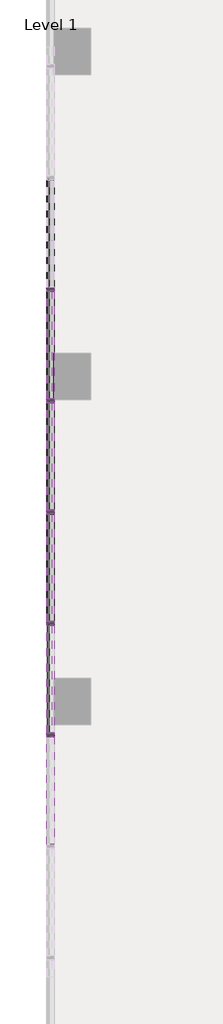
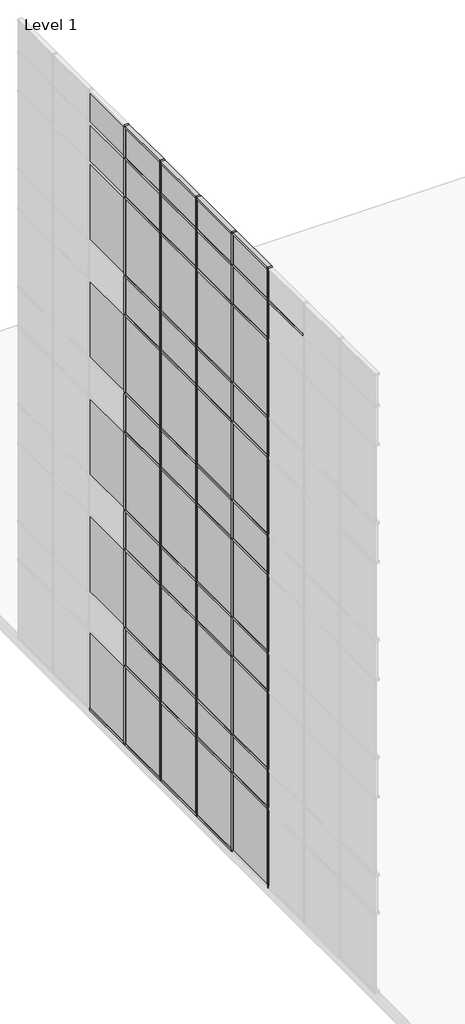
# One storey, part 3 of 23: 79 members, 51 plates.
"""IFC4 building model written with IfcOpenShell, lengths in millimetres."""

from ifc_helpers import new_model, si_unit, origin, place, context, project, spatial, transform, mapped, element, save
from components import member_f92b8aa2, member_810865a4, member_6d5c3e5e, member_9764dd38, system_panel_glazed_14c75400, system_panel_solid_5dfe6f83, system_panel_solid_e25e2004, system_panel_solid_b7551183

model = new_model("IFC4")

# Units and contexts
model_context = context("Model", 3, world=origin())
ifc_project = project(units=[si_unit("LENGTHUNIT", "METRE", prefix="MILLI")], contexts=[model_context])

# Site, building, storey
site = spatial("IfcSite", under=ifc_project)
building = spatial("IfcBuilding", under=site)
storey = spatial("IfcBuildingStorey", under=building, Name="Level 1", Elevation=0.0)

# Members
placement = place(None, origin())
member_shape = member_f92b8aa2(model_context)
element("IfcMember", 1, ObjectType="Rectangular Mullion : 2.5\" x 5\" rectangular", at=placement, inside=storey, context=model_context, shape_type="MappedRepresentation", body=[
    mapped(member_shape, transform((-68724.2599961, -14912.3103492, 18288.0), x_axis=(0.0, 1.0, 0.0), y_axis=(1.0, 0.0, 0.0), z_axis=(0.0, 0.0, -1.0))),
])
element("IfcMember", 2, ObjectType="Rectangular Mullion : 2.5\" x 5\" rectangular", at=placement, inside=storey, context=model_context, shape_type="MappedRepresentation", body=[
    mapped(member_shape, transform((-68724.2599961, -13083.5103492, 18288.0), x_axis=(0.0, 1.0, 0.0), y_axis=(1.0, 0.0, 0.0), z_axis=(0.0, 0.0, -1.0))),
])
element("IfcMember", 3, ObjectType="Rectangular Mullion : 2.5\" x 5\" rectangular", at=placement, inside=storey, context=model_context, shape_type="MappedRepresentation", body=[
    mapped(member_shape, transform((-68724.2599961, -11254.7103492, 18288.0), x_axis=(0.0, 1.0, 0.0), y_axis=(1.0, 0.0, 0.0), z_axis=(0.0, 0.0, -1.0))),
])
element("IfcMember", 4, ObjectType="Rectangular Mullion : 2.5\" x 5\" rectangular", at=placement, inside=storey, context=model_context, shape_type="MappedRepresentation", body=[
    mapped(member_shape, transform((-68724.2599961, -9425.9103492, 18288.0), x_axis=(0.0, 1.0, 0.0), y_axis=(1.0, 0.0, 0.0), z_axis=(0.0, 0.0, -1.0))),
])
element("IfcMember", 5, ObjectType="Rectangular Mullion : 2.5\" x 5\" rectangular", at=placement, inside=storey, context=model_context, shape_type="MappedRepresentation", body=[
    mapped(member_shape, transform((-68724.2599961, -7597.1103492, 18288.0), x_axis=(0.0, 1.0, 0.0), y_axis=(1.0, 0.0, 0.0), z_axis=(0.0, 0.0, -1.0))),
])
member_2_shape = member_810865a4(model_context)
element("IfcMember", 6, ObjectType="Rectangular Mullion : 2.5\" x 5\" rectangular", at=placement, inside=storey, context=model_context, shape_type="MappedRepresentation", body=[
    mapped(member_2_shape, transform((-68724.2599961, -14912.3103492, 3657.6), x_axis=(0.0, 1.0, 0.0), y_axis=(1.0, 0.0, 0.0), z_axis=(0.0, 0.0, -1.0))),
])
element("IfcMember", 7, ObjectType="Rectangular Mullion : 2.5\" x 5\" rectangular", at=placement, inside=storey, context=model_context, shape_type="MappedRepresentation", body=[
    mapped(member_2_shape, transform((-68724.2599961, -13083.5103492, 3657.6), x_axis=(0.0, 1.0, 0.0), y_axis=(1.0, 0.0, 0.0), z_axis=(0.0, 0.0, -1.0))),
])
element("IfcMember", 8, ObjectType="Rectangular Mullion : 2.5\" x 5\" rectangular", at=placement, inside=storey, context=model_context, shape_type="MappedRepresentation", body=[
    mapped(member_2_shape, transform((-68724.2599961, -11254.7103492, 3657.6), x_axis=(0.0, 1.0, 0.0), y_axis=(1.0, 0.0, 0.0), z_axis=(0.0, 0.0, -1.0))),
])
element("IfcMember", 9, ObjectType="Rectangular Mullion : 2.5\" x 5\" rectangular", at=placement, inside=storey, context=model_context, shape_type="MappedRepresentation", body=[
    mapped(member_2_shape, transform((-68724.2599961, -9425.9103492, 3657.6), x_axis=(0.0, 1.0, 0.0), y_axis=(1.0, 0.0, 0.0), z_axis=(0.0, 0.0, -1.0))),
])
element("IfcMember", 10, ObjectType="Rectangular Mullion : 2.5\" x 5\" rectangular", at=placement, inside=storey, context=model_context, shape_type="MappedRepresentation", body=[
    mapped(member_2_shape, transform((-68724.2599961, -7597.1103492, 3657.6), x_axis=(0.0, 1.0, 0.0), y_axis=(1.0, 0.0, 0.0), z_axis=(0.0, 0.0, -1.0))),
])
element("IfcMember", 11, ObjectType="Rectangular Mullion : 2.5\" x 5\" rectangular", at=placement, inside=storey, context=model_context, shape_type="MappedRepresentation", body=[
    mapped(member_2_shape, transform((-68724.2599961, -14912.3103492, 7315.2), x_axis=(0.0, 1.0, 0.0), y_axis=(1.0, 0.0, 0.0), z_axis=(0.0, 0.0, -1.0))),
])
element("IfcMember", 12, ObjectType="Rectangular Mullion : 2.5\" x 5\" rectangular", at=placement, inside=storey, context=model_context, shape_type="MappedRepresentation", body=[
    mapped(member_2_shape, transform((-68724.2599961, -13083.5103492, 7315.2), x_axis=(0.0, 1.0, 0.0), y_axis=(1.0, 0.0, 0.0), z_axis=(0.0, 0.0, -1.0))),
])
element("IfcMember", 13, ObjectType="Rectangular Mullion : 2.5\" x 5\" rectangular", at=placement, inside=storey, context=model_context, shape_type="MappedRepresentation", body=[
    mapped(member_2_shape, transform((-68724.2599961, -11254.7103492, 7315.2), x_axis=(0.0, 1.0, 0.0), y_axis=(1.0, 0.0, 0.0), z_axis=(0.0, 0.0, -1.0))),
])
element("IfcMember", 14, ObjectType="Rectangular Mullion : 2.5\" x 5\" rectangular", at=placement, inside=storey, context=model_context, shape_type="MappedRepresentation", body=[
    mapped(member_2_shape, transform((-68724.2599961, -9425.9103492, 7315.2), x_axis=(0.0, 1.0, 0.0), y_axis=(1.0, 0.0, 0.0), z_axis=(0.0, 0.0, -1.0))),
])
element("IfcMember", 15, ObjectType="Rectangular Mullion : 2.5\" x 5\" rectangular", at=placement, inside=storey, context=model_context, shape_type="MappedRepresentation", body=[
    mapped(member_2_shape, transform((-68724.2599961, -7597.1103492, 7315.2), x_axis=(0.0, 1.0, 0.0), y_axis=(1.0, 0.0, 0.0), z_axis=(0.0, 0.0, -1.0))),
])
element("IfcMember", 16, ObjectType="Rectangular Mullion : 2.5\" x 5\" rectangular", at=placement, inside=storey, context=model_context, shape_type="MappedRepresentation", body=[
    mapped(member_2_shape, transform((-68724.2599961, -14912.3103492, 10972.8), x_axis=(0.0, 1.0, 0.0), y_axis=(1.0, 0.0, 0.0), z_axis=(0.0, 0.0, -1.0))),
])
element("IfcMember", 17, ObjectType="Rectangular Mullion : 2.5\" x 5\" rectangular", at=placement, inside=storey, context=model_context, shape_type="MappedRepresentation", body=[
    mapped(member_2_shape, transform((-68724.2599961, -13083.5103492, 10972.8), x_axis=(0.0, 1.0, 0.0), y_axis=(1.0, 0.0, 0.0), z_axis=(0.0, 0.0, -1.0))),
])
element("IfcMember", 18, ObjectType="Rectangular Mullion : 2.5\" x 5\" rectangular", at=placement, inside=storey, context=model_context, shape_type="MappedRepresentation", body=[
    mapped(member_2_shape, transform((-68724.2599961, -11254.7103492, 10972.8), x_axis=(0.0, 1.0, 0.0), y_axis=(1.0, 0.0, 0.0), z_axis=(0.0, 0.0, -1.0))),
])
element("IfcMember", 19, ObjectType="Rectangular Mullion : 2.5\" x 5\" rectangular", at=placement, inside=storey, context=model_context, shape_type="MappedRepresentation", body=[
    mapped(member_2_shape, transform((-68724.2599961, -9425.9103492, 10972.8), x_axis=(0.0, 1.0, 0.0), y_axis=(1.0, 0.0, 0.0), z_axis=(0.0, 0.0, -1.0))),
])
element("IfcMember", 20, ObjectType="Rectangular Mullion : 2.5\" x 5\" rectangular", at=placement, inside=storey, context=model_context, shape_type="MappedRepresentation", body=[
    mapped(member_2_shape, transform((-68724.2599961, -7597.1103492, 10972.8), x_axis=(0.0, 1.0, 0.0), y_axis=(1.0, 0.0, 0.0), z_axis=(0.0, 0.0, -1.0))),
])
element("IfcMember", 21, ObjectType="Rectangular Mullion : 2.5\" x 5\" rectangular", at=placement, inside=storey, context=model_context, shape_type="MappedRepresentation", body=[
    mapped(member_2_shape, transform((-68724.2599961, -14912.3103492, 14630.4), x_axis=(0.0, 1.0, 0.0), y_axis=(1.0, 0.0, 0.0), z_axis=(0.0, 0.0, -1.0))),
])
element("IfcMember", 22, ObjectType="Rectangular Mullion : 2.5\" x 5\" rectangular", at=placement, inside=storey, context=model_context, shape_type="MappedRepresentation", body=[
    mapped(member_2_shape, transform((-68724.2599961, -13083.5103492, 14630.4), x_axis=(0.0, 1.0, 0.0), y_axis=(1.0, 0.0, 0.0), z_axis=(0.0, 0.0, -1.0))),
])
element("IfcMember", 23, ObjectType="Rectangular Mullion : 2.5\" x 5\" rectangular", at=placement, inside=storey, context=model_context, shape_type="MappedRepresentation", body=[
    mapped(member_2_shape, transform((-68724.2599961, -11254.7103492, 14630.4), x_axis=(0.0, 1.0, 0.0), y_axis=(1.0, 0.0, 0.0), z_axis=(0.0, 0.0, -1.0))),
])
element("IfcMember", 24, ObjectType="Rectangular Mullion : 2.5\" x 5\" rectangular", at=placement, inside=storey, context=model_context, shape_type="MappedRepresentation", body=[
    mapped(member_2_shape, transform((-68724.2599961, -9425.9103492, 14630.4), x_axis=(0.0, 1.0, 0.0), y_axis=(1.0, 0.0, 0.0), z_axis=(0.0, 0.0, -1.0))),
])
element("IfcMember", 25, ObjectType="Rectangular Mullion : 2.5\" x 5\" rectangular", at=placement, inside=storey, context=model_context, shape_type="MappedRepresentation", body=[
    mapped(member_2_shape, transform((-68724.2599961, -7597.1103492, 14630.4), x_axis=(0.0, 1.0, 0.0), y_axis=(1.0, 0.0, 0.0), z_axis=(0.0, 0.0, -1.0))),
])
member_3_shape = member_6d5c3e5e(model_context)
element("IfcMember", 26, ObjectType="Rectangular Mullion : 2.5\" x 5\" rectangular", at=placement, inside=storey, context=model_context, shape_type="MappedRepresentation", body=[
    mapped(member_3_shape, transform((-68724.2599961, -13115.2603492, 19304.0), x_axis=(0.0, 0.0, 1.0), y_axis=(1.0, 0.0, 0.0), z_axis=(0.0, 1.0, 0.0))),
])
element("IfcMember", 27, ObjectType="Rectangular Mullion : 2.5\" x 5\" rectangular", at=placement, inside=storey, context=model_context, shape_type="MappedRepresentation", body=[
    mapped(member_3_shape, transform((-68724.2599961, -11286.4603492, 19304.0), x_axis=(0.0, 0.0, 1.0), y_axis=(1.0, 0.0, 0.0), z_axis=(0.0, 1.0, 0.0))),
])
element("IfcMember", 28, ObjectType="Rectangular Mullion : 2.5\" x 5\" rectangular", at=placement, inside=storey, context=model_context, shape_type="MappedRepresentation", body=[
    mapped(member_3_shape, transform((-68724.2599961, -9457.6603492, 19304.0), x_axis=(0.0, 0.0, 1.0), y_axis=(1.0, 0.0, 0.0), z_axis=(0.0, 1.0, 0.0))),
])
element("IfcMember", 29, ObjectType="Rectangular Mullion : 2.5\" x 5\" rectangular", at=placement, inside=storey, context=model_context, shape_type="MappedRepresentation", body=[
    mapped(member_3_shape, transform((-68724.2599961, -7628.8603492, 19304.0), x_axis=(0.0, 0.0, 1.0), y_axis=(1.0, 0.0, 0.0), z_axis=(0.0, 1.0, 0.0))),
])
member_4_shape = member_9764dd38(model_context)
element("IfcMember", 30, ObjectType="Rectangular Mullion : 2.5\" x 5\" rectangular", at=placement, inside=storey, context=model_context, shape_type="MappedRepresentation", body=[
    mapped(member_4_shape, transform((-68724.2599961, -7628.8603492, 17068.8), x_axis=(0.0, 0.0, 1.0), y_axis=(1.0, 0.0, 0.0), z_axis=(0.0, 1.0, 0.0))),
])
element("IfcMember", 31, ObjectType="Rectangular Mullion : 2.5\" x 5\" rectangular", at=placement, inside=storey, context=model_context, shape_type="MappedRepresentation", body=[
    mapped(member_4_shape, transform((-68724.2599961, -9457.6603492, 17068.8), x_axis=(0.0, 0.0, 1.0), y_axis=(1.0, 0.0, 0.0), z_axis=(0.0, 1.0, 0.0))),
])
element("IfcMember", 32, ObjectType="Rectangular Mullion : 2.5\" x 5\" rectangular", at=placement, inside=storey, context=model_context, shape_type="MappedRepresentation", body=[
    mapped(member_4_shape, transform((-68724.2599961, -11286.4603492, 17068.8), x_axis=(0.0, 0.0, 1.0), y_axis=(1.0, 0.0, 0.0), z_axis=(0.0, 1.0, 0.0))),
])
element("IfcMember", 33, ObjectType="Rectangular Mullion : 2.5\" x 5\" rectangular", at=placement, inside=storey, context=model_context, shape_type="MappedRepresentation", body=[
    mapped(member_4_shape, transform((-68724.2599961, -13115.2603492, 17068.8), x_axis=(0.0, 0.0, 1.0), y_axis=(1.0, 0.0, 0.0), z_axis=(0.0, 1.0, 0.0))),
])
element("IfcMember", 34, ObjectType="Rectangular Mullion : 2.5\" x 5\" rectangular", at=placement, inside=storey, context=model_context, shape_type="MappedRepresentation", body=[
    mapped(member_4_shape, transform((-68724.2599961, -7628.8603492, 13411.2), x_axis=(0.0, 0.0, 1.0), y_axis=(1.0, 0.0, 0.0), z_axis=(0.0, 1.0, 0.0))),
])
element("IfcMember", 35, ObjectType="Rectangular Mullion : 2.5\" x 5\" rectangular", at=placement, inside=storey, context=model_context, shape_type="MappedRepresentation", body=[
    mapped(member_4_shape, transform((-68724.2599961, -9457.6603492, 13411.2), x_axis=(0.0, 0.0, 1.0), y_axis=(1.0, 0.0, 0.0), z_axis=(0.0, 1.0, 0.0))),
])
element("IfcMember", 36, ObjectType="Rectangular Mullion : 2.5\" x 5\" rectangular", at=placement, inside=storey, context=model_context, shape_type="MappedRepresentation", body=[
    mapped(member_4_shape, transform((-68724.2599961, -11286.4603492, 13411.2), x_axis=(0.0, 0.0, 1.0), y_axis=(1.0, 0.0, 0.0), z_axis=(0.0, 1.0, 0.0))),
])
element("IfcMember", 37, ObjectType="Rectangular Mullion : 2.5\" x 5\" rectangular", at=placement, inside=storey, context=model_context, shape_type="MappedRepresentation", body=[
    mapped(member_4_shape, transform((-68724.2599961, -13115.2603492, 13411.2), x_axis=(0.0, 0.0, 1.0), y_axis=(1.0, 0.0, 0.0), z_axis=(0.0, 1.0, 0.0))),
])
element("IfcMember", 38, ObjectType="Rectangular Mullion : 2.5\" x 5\" rectangular", at=placement, inside=storey, context=model_context, shape_type="MappedRepresentation", body=[
    mapped(member_4_shape, transform((-68724.2599961, -7628.8603492, 9753.6), x_axis=(0.0, 0.0, 1.0), y_axis=(1.0, 0.0, 0.0), z_axis=(0.0, 1.0, 0.0))),
])
element("IfcMember", 39, ObjectType="Rectangular Mullion : 2.5\" x 5\" rectangular", at=placement, inside=storey, context=model_context, shape_type="MappedRepresentation", body=[
    mapped(member_4_shape, transform((-68724.2599961, -9457.6603492, 9753.6), x_axis=(0.0, 0.0, 1.0), y_axis=(1.0, 0.0, 0.0), z_axis=(0.0, 1.0, 0.0))),
])
element("IfcMember", 40, ObjectType="Rectangular Mullion : 2.5\" x 5\" rectangular", at=placement, inside=storey, context=model_context, shape_type="MappedRepresentation", body=[
    mapped(member_4_shape, transform((-68724.2599961, -11286.4603492, 9753.6), x_axis=(0.0, 0.0, 1.0), y_axis=(1.0, 0.0, 0.0), z_axis=(0.0, 1.0, 0.0))),
])
element("IfcMember", 41, ObjectType="Rectangular Mullion : 2.5\" x 5\" rectangular", at=placement, inside=storey, context=model_context, shape_type="MappedRepresentation", body=[
    mapped(member_4_shape, transform((-68724.2599961, -13115.2603492, 9753.6), x_axis=(0.0, 0.0, 1.0), y_axis=(1.0, 0.0, 0.0), z_axis=(0.0, 1.0, 0.0))),
])
element("IfcMember", 42, ObjectType="Rectangular Mullion : 2.5\" x 5\" rectangular", at=placement, inside=storey, context=model_context, shape_type="MappedRepresentation", body=[
    mapped(member_4_shape, transform((-68724.2599961, -7628.8603492, 6096.0), x_axis=(0.0, 0.0, 1.0), y_axis=(1.0, 0.0, 0.0), z_axis=(0.0, 1.0, 0.0))),
])
element("IfcMember", 43, ObjectType="Rectangular Mullion : 2.5\" x 5\" rectangular", at=placement, inside=storey, context=model_context, shape_type="MappedRepresentation", body=[
    mapped(member_4_shape, transform((-68724.2599961, -9457.6603492, 6096.0), x_axis=(0.0, 0.0, 1.0), y_axis=(1.0, 0.0, 0.0), z_axis=(0.0, 1.0, 0.0))),
])
element("IfcMember", 44, ObjectType="Rectangular Mullion : 2.5\" x 5\" rectangular", at=placement, inside=storey, context=model_context, shape_type="MappedRepresentation", body=[
    mapped(member_4_shape, transform((-68724.2599961, -11286.4603492, 6096.0), x_axis=(0.0, 0.0, 1.0), y_axis=(1.0, 0.0, 0.0), z_axis=(0.0, 1.0, 0.0))),
])
element("IfcMember", 45, ObjectType="Rectangular Mullion : 2.5\" x 5\" rectangular", at=placement, inside=storey, context=model_context, shape_type="MappedRepresentation", body=[
    mapped(member_4_shape, transform((-68724.2599961, -13115.2603492, 6096.0), x_axis=(0.0, 0.0, 1.0), y_axis=(1.0, 0.0, 0.0), z_axis=(0.0, 1.0, 0.0))),
])
element("IfcMember", 46, ObjectType="Rectangular Mullion : 2.5\" x 5\" rectangular", at=placement, inside=storey, context=model_context, shape_type="MappedRepresentation", body=[
    mapped(member_4_shape, transform((-68724.2599961, -7628.8603492, 2470.15), x_axis=(0.0, 0.0, 1.0), y_axis=(1.0, 0.0, 0.0), z_axis=(0.0, 1.0, 0.0))),
])
element("IfcMember", 47, ObjectType="Rectangular Mullion : 2.5\" x 5\" rectangular", at=placement, inside=storey, context=model_context, shape_type="MappedRepresentation", body=[
    mapped(member_4_shape, transform((-68724.2599961, -9457.6603492, 2470.15), x_axis=(0.0, 0.0, 1.0), y_axis=(1.0, 0.0, 0.0), z_axis=(0.0, 1.0, 0.0))),
])
element("IfcMember", 48, ObjectType="Rectangular Mullion : 2.5\" x 5\" rectangular", at=placement, inside=storey, context=model_context, shape_type="MappedRepresentation", body=[
    mapped(member_4_shape, transform((-68724.2599961, -11286.4603492, 2470.15), x_axis=(0.0, 0.0, 1.0), y_axis=(1.0, 0.0, 0.0), z_axis=(0.0, 1.0, 0.0))),
])
element("IfcMember", 49, ObjectType="Rectangular Mullion : 2.5\" x 5\" rectangular", at=placement, inside=storey, context=model_context, shape_type="MappedRepresentation", body=[
    mapped(member_4_shape, transform((-68724.2599961, -13115.2603492, 2470.15), x_axis=(0.0, 0.0, 1.0), y_axis=(1.0, 0.0, 0.0), z_axis=(0.0, 1.0, 0.0))),
])
element("IfcMember", 50, ObjectType="Rectangular Mullion : 2.5\" x 5\" rectangular", at=placement, inside=storey, context=model_context, shape_type="MappedRepresentation", body=[
    mapped(member_2_shape, transform((-68724.2599961, -14912.3103492, 0.0), x_axis=(0.0, 1.0, 0.0), y_axis=(1.0, 0.0, 0.0), z_axis=(0.0, 0.0, -1.0))),
])
element("IfcMember", 51, ObjectType="Rectangular Mullion : 2.5\" x 5\" rectangular", at=placement, inside=storey, context=model_context, shape_type="MappedRepresentation", body=[
    mapped(member_2_shape, transform((-68724.2599961, -13083.5103492, 0.0), x_axis=(0.0, 1.0, 0.0), y_axis=(1.0, 0.0, 0.0), z_axis=(0.0, 0.0, -1.0))),
])
element("IfcMember", 52, ObjectType="Rectangular Mullion : 2.5\" x 5\" rectangular", at=placement, inside=storey, context=model_context, shape_type="MappedRepresentation", body=[
    mapped(member_2_shape, transform((-68724.2599961, -11254.7103492, 0.0), x_axis=(0.0, 1.0, 0.0), y_axis=(1.0, 0.0, 0.0), z_axis=(0.0, 0.0, -1.0))),
])
element("IfcMember", 53, ObjectType="Rectangular Mullion : 2.5\" x 5\" rectangular", at=placement, inside=storey, context=model_context, shape_type="MappedRepresentation", body=[
    mapped(member_2_shape, transform((-68724.2599961, -9425.9103492, 0.0), x_axis=(0.0, 1.0, 0.0), y_axis=(1.0, 0.0, 0.0), z_axis=(0.0, 0.0, -1.0))),
])
element("IfcMember", 54, ObjectType="Rectangular Mullion : 2.5\" x 5\" rectangular", at=placement, inside=storey, context=model_context, shape_type="MappedRepresentation", body=[
    mapped(member_2_shape, transform((-68724.2599961, -7597.1103492, 0.0), x_axis=(0.0, 1.0, 0.0), y_axis=(1.0, 0.0, 0.0), z_axis=(0.0, 0.0, -1.0))),
])
element("IfcMember", 55, ObjectType="Rectangular Mullion : 2.5\" x 5\" rectangular", at=placement, inside=storey, context=model_context, shape_type="MappedRepresentation", body=[
    mapped(member_3_shape, transform((-68724.2599961, -13051.7603492, 0.0), x_axis=(0.0, 0.0, -1.0), y_axis=(1.0, 0.0, 0.0), z_axis=(0.0, -1.0, 0.0))),
])
element("IfcMember", 56, ObjectType="Rectangular Mullion : 2.5\" x 5\" rectangular", at=placement, inside=storey, context=model_context, shape_type="MappedRepresentation", body=[
    mapped(member_3_shape, transform((-68724.2599961, -11222.9603492, 0.0), x_axis=(0.0, 0.0, -1.0), y_axis=(1.0, 0.0, 0.0), z_axis=(0.0, -1.0, 0.0))),
])
element("IfcMember", 57, ObjectType="Rectangular Mullion : 2.5\" x 5\" rectangular", at=placement, inside=storey, context=model_context, shape_type="MappedRepresentation", body=[
    mapped(member_3_shape, transform((-68724.2599961, -9394.1603492, 0.0), x_axis=(0.0, 0.0, -1.0), y_axis=(1.0, 0.0, 0.0), z_axis=(0.0, -1.0, 0.0))),
])
element("IfcMember", 58, ObjectType="Rectangular Mullion : 2.5\" x 5\" rectangular", at=placement, inside=storey, context=model_context, shape_type="MappedRepresentation", body=[
    mapped(member_3_shape, transform((-68724.2599961, -7565.3603492, 0.0), x_axis=(0.0, 0.0, -1.0), y_axis=(1.0, 0.0, 0.0), z_axis=(0.0, -1.0, 0.0))),
])
element("IfcMember", 59, ObjectType="Rectangular Mullion : 2.5\" x 5\" rectangular", at=placement, inside=storey, context=model_context, shape_type="MappedRepresentation", body=[
    mapped(member_4_shape, transform((-68724.2599961, -13115.2603492, 3657.6), x_axis=(0.0, 0.0, 1.0), y_axis=(1.0, 0.0, 0.0), z_axis=(0.0, 1.0, 0.0))),
])
element("IfcMember", 60, ObjectType="Rectangular Mullion : 2.5\" x 5\" rectangular", at=placement, inside=storey, context=model_context, shape_type="MappedRepresentation", body=[
    mapped(member_4_shape, transform((-68724.2599961, -11286.4603492, 3657.6), x_axis=(0.0, 0.0, 1.0), y_axis=(1.0, 0.0, 0.0), z_axis=(0.0, 1.0, 0.0))),
])
element("IfcMember", 61, ObjectType="Rectangular Mullion : 2.5\" x 5\" rectangular", at=placement, inside=storey, context=model_context, shape_type="MappedRepresentation", body=[
    mapped(member_4_shape, transform((-68724.2599961, -9457.6603492, 3657.6), x_axis=(0.0, 0.0, 1.0), y_axis=(1.0, 0.0, 0.0), z_axis=(0.0, 1.0, 0.0))),
])
element("IfcMember", 62, ObjectType="Rectangular Mullion : 2.5\" x 5\" rectangular", at=placement, inside=storey, context=model_context, shape_type="MappedRepresentation", body=[
    mapped(member_4_shape, transform((-68724.2599961, -7628.8603492, 3657.6), x_axis=(0.0, 0.0, 1.0), y_axis=(1.0, 0.0, 0.0), z_axis=(0.0, 1.0, 0.0))),
])
element("IfcMember", 63, ObjectType="Rectangular Mullion : 2.5\" x 5\" rectangular", at=placement, inside=storey, context=model_context, shape_type="MappedRepresentation", body=[
    mapped(member_4_shape, transform((-68724.2599961, -13115.2603492, 7315.2), x_axis=(0.0, 0.0, 1.0), y_axis=(1.0, 0.0, 0.0), z_axis=(0.0, 1.0, 0.0))),
])
element("IfcMember", 64, ObjectType="Rectangular Mullion : 2.5\" x 5\" rectangular", at=placement, inside=storey, context=model_context, shape_type="MappedRepresentation", body=[
    mapped(member_4_shape, transform((-68724.2599961, -11286.4603492, 7315.2), x_axis=(0.0, 0.0, 1.0), y_axis=(1.0, 0.0, 0.0), z_axis=(0.0, 1.0, 0.0))),
])
element("IfcMember", 65, ObjectType="Rectangular Mullion : 2.5\" x 5\" rectangular", at=placement, inside=storey, context=model_context, shape_type="MappedRepresentation", body=[
    mapped(member_4_shape, transform((-68724.2599961, -9457.6603492, 7315.2), x_axis=(0.0, 0.0, 1.0), y_axis=(1.0, 0.0, 0.0), z_axis=(0.0, 1.0, 0.0))),
])
element("IfcMember", 66, ObjectType="Rectangular Mullion : 2.5\" x 5\" rectangular", at=placement, inside=storey, context=model_context, shape_type="MappedRepresentation", body=[
    mapped(member_4_shape, transform((-68724.2599961, -7628.8603492, 7315.2), x_axis=(0.0, 0.0, 1.0), y_axis=(1.0, 0.0, 0.0), z_axis=(0.0, 1.0, 0.0))),
])
element("IfcMember", 67, ObjectType="Rectangular Mullion : 2.5\" x 5\" rectangular", at=placement, inside=storey, context=model_context, shape_type="MappedRepresentation", body=[
    mapped(member_4_shape, transform((-68724.2599961, -13115.2603492, 10972.8), x_axis=(0.0, 0.0, 1.0), y_axis=(1.0, 0.0, 0.0), z_axis=(0.0, 1.0, 0.0))),
])
element("IfcMember", 68, ObjectType="Rectangular Mullion : 2.5\" x 5\" rectangular", at=placement, inside=storey, context=model_context, shape_type="MappedRepresentation", body=[
    mapped(member_4_shape, transform((-68724.2599961, -11286.4603492, 10972.8), x_axis=(0.0, 0.0, 1.0), y_axis=(1.0, 0.0, 0.0), z_axis=(0.0, 1.0, 0.0))),
])
element("IfcMember", 69, ObjectType="Rectangular Mullion : 2.5\" x 5\" rectangular", at=placement, inside=storey, context=model_context, shape_type="MappedRepresentation", body=[
    mapped(member_4_shape, transform((-68724.2599961, -9457.6603492, 10972.8), x_axis=(0.0, 0.0, 1.0), y_axis=(1.0, 0.0, 0.0), z_axis=(0.0, 1.0, 0.0))),
])
element("IfcMember", 70, ObjectType="Rectangular Mullion : 2.5\" x 5\" rectangular", at=placement, inside=storey, context=model_context, shape_type="MappedRepresentation", body=[
    mapped(member_4_shape, transform((-68724.2599961, -7628.8603492, 10972.8), x_axis=(0.0, 0.0, 1.0), y_axis=(1.0, 0.0, 0.0), z_axis=(0.0, 1.0, 0.0))),
])
element("IfcMember", 71, ObjectType="Rectangular Mullion : 2.5\" x 5\" rectangular", at=placement, inside=storey, context=model_context, shape_type="MappedRepresentation", body=[
    mapped(member_4_shape, transform((-68724.2599961, -13115.2603492, 14630.4), x_axis=(0.0, 0.0, 1.0), y_axis=(1.0, 0.0, 0.0), z_axis=(0.0, 1.0, 0.0))),
])
element("IfcMember", 72, ObjectType="Rectangular Mullion : 2.5\" x 5\" rectangular", at=placement, inside=storey, context=model_context, shape_type="MappedRepresentation", body=[
    mapped(member_4_shape, transform((-68724.2599961, -11286.4603492, 14630.4), x_axis=(0.0, 0.0, 1.0), y_axis=(1.0, 0.0, 0.0), z_axis=(0.0, 1.0, 0.0))),
])
element("IfcMember", 73, ObjectType="Rectangular Mullion : 2.5\" x 5\" rectangular", at=placement, inside=storey, context=model_context, shape_type="MappedRepresentation", body=[
    mapped(member_4_shape, transform((-68724.2599961, -9457.6603492, 14630.4), x_axis=(0.0, 0.0, 1.0), y_axis=(1.0, 0.0, 0.0), z_axis=(0.0, 1.0, 0.0))),
])
element("IfcMember", 74, ObjectType="Rectangular Mullion : 2.5\" x 5\" rectangular", at=placement, inside=storey, context=model_context, shape_type="MappedRepresentation", body=[
    mapped(member_4_shape, transform((-68724.2599961, -7628.8603492, 14630.4), x_axis=(0.0, 0.0, 1.0), y_axis=(1.0, 0.0, 0.0), z_axis=(0.0, 1.0, 0.0))),
])
element("IfcMember", 75, ObjectType="Rectangular Mullion : 2.5\" x 5\" rectangular", at=placement, inside=storey, context=model_context, shape_type="MappedRepresentation", body=[
    mapped(member_4_shape, transform((-68724.2599961, -14944.0603492, 18288.0), x_axis=(0.0, 0.0, 1.0), y_axis=(1.0, 0.0, 0.0), z_axis=(0.0, 1.0, 0.0))),
])
element("IfcMember", 76, ObjectType="Rectangular Mullion : 2.5\" x 5\" rectangular", at=placement, inside=storey, context=model_context, shape_type="MappedRepresentation", body=[
    mapped(member_4_shape, transform((-68724.2599961, -13115.2603492, 18288.0), x_axis=(0.0, 0.0, 1.0), y_axis=(1.0, 0.0, 0.0), z_axis=(0.0, 1.0, 0.0))),
])
element("IfcMember", 77, ObjectType="Rectangular Mullion : 2.5\" x 5\" rectangular", at=placement, inside=storey, context=model_context, shape_type="MappedRepresentation", body=[
    mapped(member_4_shape, transform((-68724.2599961, -11286.4603492, 18288.0), x_axis=(0.0, 0.0, 1.0), y_axis=(1.0, 0.0, 0.0), z_axis=(0.0, 1.0, 0.0))),
])
element("IfcMember", 78, ObjectType="Rectangular Mullion : 2.5\" x 5\" rectangular", at=placement, inside=storey, context=model_context, shape_type="MappedRepresentation", body=[
    mapped(member_4_shape, transform((-68724.2599961, -9457.6603492, 18288.0), x_axis=(0.0, 0.0, 1.0), y_axis=(1.0, 0.0, 0.0), z_axis=(0.0, 1.0, 0.0))),
])
element("IfcMember", 79, ObjectType="Rectangular Mullion : 2.5\" x 5\" rectangular", at=placement, inside=storey, context=model_context, shape_type="MappedRepresentation", body=[
    mapped(member_4_shape, transform((-68724.2599961, -7628.8603492, 18288.0), x_axis=(0.0, 0.0, 1.0), y_axis=(1.0, 0.0, 0.0), z_axis=(0.0, 1.0, 0.0))),
])

# Plates
system_panel_glazed_shape = system_panel_glazed_14c75400(model_context)
element("IfcPlate", 80, ObjectType="System Panel : Glazed", at=placement, inside=storey, context=model_context, shape_type="MappedRepresentation", body=[
    mapped(system_panel_glazed_shape, transform((-68724.2599961, -6682.7103492, 14662.15), x_axis=(0.0, 1.0, 0.0), y_axis=(-1.0, 0.0, 0.0), z_axis=(0.0, 0.0, 1.0))),
])
element("IfcPlate", 81, ObjectType="System Panel : Glazed", at=placement, inside=storey, context=model_context, shape_type="MappedRepresentation", body=[
    mapped(system_panel_glazed_shape, transform((-68724.2599961, -8511.5103492, 14662.15), x_axis=(0.0, 1.0, 0.0), y_axis=(-1.0, 0.0, 0.0), z_axis=(0.0, 0.0, 1.0))),
])
element("IfcPlate", 82, ObjectType="System Panel : Glazed", at=placement, inside=storey, context=model_context, shape_type="MappedRepresentation", body=[
    mapped(system_panel_glazed_shape, transform((-68724.2599961, -10340.3103492, 14662.15), x_axis=(0.0, 1.0, 0.0), y_axis=(-1.0, 0.0, 0.0), z_axis=(0.0, 0.0, 1.0))),
])
element("IfcPlate", 83, ObjectType="System Panel : Glazed", at=placement, inside=storey, context=model_context, shape_type="MappedRepresentation", body=[
    mapped(system_panel_glazed_shape, transform((-68724.2599961, -12169.1103492, 14662.15), x_axis=(0.0, 1.0, 0.0), y_axis=(-1.0, 0.0, 0.0), z_axis=(0.0, 0.0, 1.0))),
])
element("IfcPlate", 84, ObjectType="System Panel : Glazed", at=placement, inside=storey, context=model_context, shape_type="MappedRepresentation", body=[
    mapped(system_panel_glazed_shape, transform((-68724.2599961, -13997.9103492, 14662.15), x_axis=(0.0, 1.0, 0.0), y_axis=(-1.0, 0.0, 0.0), z_axis=(0.0, 0.0, 1.0))),
])
element("IfcPlate", 85, ObjectType="System Panel : Glazed", at=placement, inside=storey, context=model_context, shape_type="MappedRepresentation", body=[
    mapped(system_panel_glazed_shape, transform((-68724.2599961, -6682.7103492, 11004.55), x_axis=(0.0, 1.0, 0.0), y_axis=(-1.0, 0.0, 0.0), z_axis=(0.0, 0.0, 1.0))),
])
element("IfcPlate", 86, ObjectType="System Panel : Glazed", at=placement, inside=storey, context=model_context, shape_type="MappedRepresentation", body=[
    mapped(system_panel_glazed_shape, transform((-68724.2599961, -8511.5103492, 11004.55), x_axis=(0.0, 1.0, 0.0), y_axis=(-1.0, 0.0, 0.0), z_axis=(0.0, 0.0, 1.0))),
])
element("IfcPlate", 87, ObjectType="System Panel : Glazed", at=placement, inside=storey, context=model_context, shape_type="MappedRepresentation", body=[
    mapped(system_panel_glazed_shape, transform((-68724.2599961, -10340.3103492, 11004.55), x_axis=(0.0, 1.0, 0.0), y_axis=(-1.0, 0.0, 0.0), z_axis=(0.0, 0.0, 1.0))),
])
element("IfcPlate", 88, ObjectType="System Panel : Glazed", at=placement, inside=storey, context=model_context, shape_type="MappedRepresentation", body=[
    mapped(system_panel_glazed_shape, transform((-68724.2599961, -12169.1103492, 11004.55), x_axis=(0.0, 1.0, 0.0), y_axis=(-1.0, 0.0, 0.0), z_axis=(0.0, 0.0, 1.0))),
])
element("IfcPlate", 89, ObjectType="System Panel : Glazed", at=placement, inside=storey, context=model_context, shape_type="MappedRepresentation", body=[
    mapped(system_panel_glazed_shape, transform((-68724.2599961, -13997.9103492, 11004.55), x_axis=(0.0, 1.0, 0.0), y_axis=(-1.0, 0.0, 0.0), z_axis=(0.0, 0.0, 1.0))),
])
element("IfcPlate", 90, ObjectType="System Panel : Glazed", at=placement, inside=storey, context=model_context, shape_type="MappedRepresentation", body=[
    mapped(system_panel_glazed_shape, transform((-68724.2599961, -6682.7103492, 7346.95), x_axis=(0.0, 1.0, 0.0), y_axis=(-1.0, 0.0, 0.0), z_axis=(0.0, 0.0, 1.0))),
])
element("IfcPlate", 91, ObjectType="System Panel : Glazed", at=placement, inside=storey, context=model_context, shape_type="MappedRepresentation", body=[
    mapped(system_panel_glazed_shape, transform((-68724.2599961, -8511.5103492, 7346.95), x_axis=(0.0, 1.0, 0.0), y_axis=(-1.0, 0.0, 0.0), z_axis=(0.0, 0.0, 1.0))),
])
element("IfcPlate", 92, ObjectType="System Panel : Glazed", at=placement, inside=storey, context=model_context, shape_type="MappedRepresentation", body=[
    mapped(system_panel_glazed_shape, transform((-68724.2599961, -10340.3103492, 7346.95), x_axis=(0.0, 1.0, 0.0), y_axis=(-1.0, 0.0, 0.0), z_axis=(0.0, 0.0, 1.0))),
])
element("IfcPlate", 93, ObjectType="System Panel : Glazed", at=placement, inside=storey, context=model_context, shape_type="MappedRepresentation", body=[
    mapped(system_panel_glazed_shape, transform((-68724.2599961, -12169.1103492, 7346.95), x_axis=(0.0, 1.0, 0.0), y_axis=(-1.0, 0.0, 0.0), z_axis=(0.0, 0.0, 1.0))),
])
element("IfcPlate", 94, ObjectType="System Panel : Glazed", at=placement, inside=storey, context=model_context, shape_type="MappedRepresentation", body=[
    mapped(system_panel_glazed_shape, transform((-68724.2599961, -13997.9103492, 7346.95), x_axis=(0.0, 1.0, 0.0), y_axis=(-1.0, 0.0, 0.0), z_axis=(0.0, 0.0, 1.0))),
])
element("IfcPlate", 95, ObjectType="System Panel : Glazed", at=placement, inside=storey, context=model_context, shape_type="MappedRepresentation", body=[
    mapped(system_panel_glazed_shape, transform((-68724.2599961, -6682.7103492, 3689.35), x_axis=(0.0, 1.0, 0.0), y_axis=(-1.0, 0.0, 0.0), z_axis=(0.0, 0.0, 1.0))),
])
element("IfcPlate", 96, ObjectType="System Panel : Glazed", at=placement, inside=storey, context=model_context, shape_type="MappedRepresentation", body=[
    mapped(system_panel_glazed_shape, transform((-68724.2599961, -8511.5103492, 3689.35), x_axis=(0.0, 1.0, 0.0), y_axis=(-1.0, 0.0, 0.0), z_axis=(0.0, 0.0, 1.0))),
])
element("IfcPlate", 97, ObjectType="System Panel : Glazed", at=placement, inside=storey, context=model_context, shape_type="MappedRepresentation", body=[
    mapped(system_panel_glazed_shape, transform((-68724.2599961, -10340.3103492, 3689.35), x_axis=(0.0, 1.0, 0.0), y_axis=(-1.0, 0.0, 0.0), z_axis=(0.0, 0.0, 1.0))),
])
element("IfcPlate", 98, ObjectType="System Panel : Glazed", at=placement, inside=storey, context=model_context, shape_type="MappedRepresentation", body=[
    mapped(system_panel_glazed_shape, transform((-68724.2599961, -12169.1103492, 3689.35), x_axis=(0.0, 1.0, 0.0), y_axis=(-1.0, 0.0, 0.0), z_axis=(0.0, 0.0, 1.0))),
])
element("IfcPlate", 99, ObjectType="System Panel : Glazed", at=placement, inside=storey, context=model_context, shape_type="MappedRepresentation", body=[
    mapped(system_panel_glazed_shape, transform((-68724.2599961, -13997.9103492, 3689.35), x_axis=(0.0, 1.0, 0.0), y_axis=(-1.0, 0.0, 0.0), z_axis=(0.0, 0.0, 1.0))),
])
element("IfcPlate", 100, ObjectType="System Panel : Glazed", at=placement, inside=storey, context=model_context, shape_type="MappedRepresentation", body=[
    mapped(system_panel_glazed_shape, transform((-68724.2599961, -6682.7103492, 63.5), x_axis=(0.0, 1.0, 0.0), y_axis=(-1.0, 0.0, 0.0), z_axis=(0.0, 0.0, 1.0))),
])
element("IfcPlate", 101, ObjectType="System Panel : Glazed", at=placement, inside=storey, context=model_context, shape_type="MappedRepresentation", body=[
    mapped(system_panel_glazed_shape, transform((-68724.2599961, -8511.5103492, 63.5), x_axis=(0.0, 1.0, 0.0), y_axis=(-1.0, 0.0, 0.0), z_axis=(0.0, 0.0, 1.0))),
])
element("IfcPlate", 102, ObjectType="System Panel : Glazed", at=placement, inside=storey, context=model_context, shape_type="MappedRepresentation", body=[
    mapped(system_panel_glazed_shape, transform((-68724.2599961, -10340.3103492, 63.5), x_axis=(0.0, 1.0, 0.0), y_axis=(-1.0, 0.0, 0.0), z_axis=(0.0, 0.0, 1.0))),
])
element("IfcPlate", 103, ObjectType="System Panel : Glazed", at=placement, inside=storey, context=model_context, shape_type="MappedRepresentation", body=[
    mapped(system_panel_glazed_shape, transform((-68724.2599961, -12169.1103492, 63.5), x_axis=(0.0, 1.0, 0.0), y_axis=(-1.0, 0.0, 0.0), z_axis=(0.0, 0.0, 1.0))),
])
element("IfcPlate", 104, ObjectType="System Panel : Glazed", at=placement, inside=storey, context=model_context, shape_type="MappedRepresentation", body=[
    mapped(system_panel_glazed_shape, transform((-68724.2599961, -13997.9103492, 63.5), x_axis=(0.0, 1.0, 0.0), y_axis=(-1.0, 0.0, 0.0), z_axis=(0.0, 0.0, 1.0))),
])
system_panel_solid_shape = system_panel_solid_5dfe6f83(model_context)
element("IfcPlate", 105, ObjectType="System Panel : Solid", at=placement, inside=storey, context=model_context, shape_type="MappedRepresentation", body=[
    mapped(system_panel_solid_shape, transform((-68724.2599961, -13997.9103492, 18319.75), x_axis=(0.0, 1.0, 0.0), y_axis=(-1.0, 0.0, 0.0), z_axis=(0.0, 0.0, 1.0))),
])
element("IfcPlate", 106, ObjectType="System Panel : Solid", at=placement, inside=storey, context=model_context, shape_type="MappedRepresentation", body=[
    mapped(system_panel_solid_shape, transform((-68724.2599961, -12169.1103492, 18319.75), x_axis=(0.0, 1.0, 0.0), y_axis=(-1.0, 0.0, 0.0), z_axis=(0.0, 0.0, 1.0))),
])
element("IfcPlate", 107, ObjectType="System Panel : Solid", at=placement, inside=storey, context=model_context, shape_type="MappedRepresentation", body=[
    mapped(system_panel_solid_shape, transform((-68724.2599961, -10340.3103492, 18319.75), x_axis=(0.0, 1.0, 0.0), y_axis=(-1.0, 0.0, 0.0), z_axis=(0.0, 0.0, 1.0))),
])
element("IfcPlate", 108, ObjectType="System Panel : Solid", at=placement, inside=storey, context=model_context, shape_type="MappedRepresentation", body=[
    mapped(system_panel_solid_shape, transform((-68724.2599961, -8511.5103492, 18319.75), x_axis=(0.0, 1.0, 0.0), y_axis=(-1.0, 0.0, 0.0), z_axis=(0.0, 0.0, 1.0))),
])
element("IfcPlate", 109, ObjectType="System Panel : Solid", at=placement, inside=storey, context=model_context, shape_type="MappedRepresentation", body=[
    mapped(system_panel_solid_shape, transform((-68724.2599961, -6682.7103492, 18319.75), x_axis=(0.0, 1.0, 0.0), y_axis=(-1.0, 0.0, 0.0), z_axis=(0.0, 0.0, 1.0))),
])
system_panel_solid_2_shape = system_panel_solid_e25e2004(model_context)
element("IfcPlate", 110, ObjectType="System Panel : Solid", at=placement, inside=storey, context=model_context, shape_type="MappedRepresentation", body=[
    mapped(system_panel_solid_2_shape, transform((-68724.2599961, -6682.7103492, 17100.55), x_axis=(0.0, 1.0, 0.0), y_axis=(-1.0, 0.0, 0.0), z_axis=(0.0, 0.0, 1.0))),
])
element("IfcPlate", 111, ObjectType="System Panel : Solid", at=placement, inside=storey, context=model_context, shape_type="MappedRepresentation", body=[
    mapped(system_panel_solid_2_shape, transform((-68724.2599961, -8511.5103492, 17100.55), x_axis=(0.0, 1.0, 0.0), y_axis=(-1.0, 0.0, 0.0), z_axis=(0.0, 0.0, 1.0))),
])
element("IfcPlate", 112, ObjectType="System Panel : Solid", at=placement, inside=storey, context=model_context, shape_type="MappedRepresentation", body=[
    mapped(system_panel_solid_2_shape, transform((-68724.2599961, -10340.3103492, 17100.55), x_axis=(0.0, 1.0, 0.0), y_axis=(-1.0, 0.0, 0.0), z_axis=(0.0, 0.0, 1.0))),
])
element("IfcPlate", 113, ObjectType="System Panel : Solid", at=placement, inside=storey, context=model_context, shape_type="MappedRepresentation", body=[
    mapped(system_panel_solid_2_shape, transform((-68724.2599961, -12169.1103492, 17100.55), x_axis=(0.0, 1.0, 0.0), y_axis=(-1.0, 0.0, 0.0), z_axis=(0.0, 0.0, 1.0))),
])
element("IfcPlate", 114, ObjectType="System Panel : Solid", at=placement, inside=storey, context=model_context, shape_type="MappedRepresentation", body=[
    mapped(system_panel_solid_2_shape, transform((-68724.2599961, -13997.9103492, 17100.55), x_axis=(0.0, 1.0, 0.0), y_axis=(-1.0, 0.0, 0.0), z_axis=(0.0, 0.0, 1.0))),
])
element("IfcPlate", 115, ObjectType="System Panel : Solid", at=placement, inside=storey, context=model_context, shape_type="MappedRepresentation", body=[
    mapped(system_panel_solid_2_shape, transform((-68724.2599961, -8511.5103492, 13442.95), x_axis=(0.0, 1.0, 0.0), y_axis=(-1.0, 0.0, 0.0), z_axis=(0.0, 0.0, 1.0))),
])
element("IfcPlate", 116, ObjectType="System Panel : Solid", at=placement, inside=storey, context=model_context, shape_type="MappedRepresentation", body=[
    mapped(system_panel_solid_2_shape, transform((-68724.2599961, -10340.3103492, 13442.95), x_axis=(0.0, 1.0, 0.0), y_axis=(-1.0, 0.0, 0.0), z_axis=(0.0, 0.0, 1.0))),
])
element("IfcPlate", 117, ObjectType="System Panel : Solid", at=placement, inside=storey, context=model_context, shape_type="MappedRepresentation", body=[
    mapped(system_panel_solid_2_shape, transform((-68724.2599961, -12169.1103492, 13442.95), x_axis=(0.0, 1.0, 0.0), y_axis=(-1.0, 0.0, 0.0), z_axis=(0.0, 0.0, 1.0))),
])
element("IfcPlate", 118, ObjectType="System Panel : Solid", at=placement, inside=storey, context=model_context, shape_type="MappedRepresentation", body=[
    mapped(system_panel_solid_2_shape, transform((-68724.2599961, -13997.9103492, 13442.95), x_axis=(0.0, 1.0, 0.0), y_axis=(-1.0, 0.0, 0.0), z_axis=(0.0, 0.0, 1.0))),
])
element("IfcPlate", 119, ObjectType="System Panel : Solid", at=placement, inside=storey, context=model_context, shape_type="MappedRepresentation", body=[
    mapped(system_panel_solid_2_shape, transform((-68724.2599961, -8511.5103492, 9785.35), x_axis=(0.0, 1.0, 0.0), y_axis=(-1.0, 0.0, 0.0), z_axis=(0.0, 0.0, 1.0))),
])
element("IfcPlate", 120, ObjectType="System Panel : Solid", at=placement, inside=storey, context=model_context, shape_type="MappedRepresentation", body=[
    mapped(system_panel_solid_2_shape, transform((-68724.2599961, -10340.3103492, 9785.35), x_axis=(0.0, 1.0, 0.0), y_axis=(-1.0, 0.0, 0.0), z_axis=(0.0, 0.0, 1.0))),
])
element("IfcPlate", 121, ObjectType="System Panel : Solid", at=placement, inside=storey, context=model_context, shape_type="MappedRepresentation", body=[
    mapped(system_panel_solid_2_shape, transform((-68724.2599961, -12169.1103492, 9785.35), x_axis=(0.0, 1.0, 0.0), y_axis=(-1.0, 0.0, 0.0), z_axis=(0.0, 0.0, 1.0))),
])
element("IfcPlate", 122, ObjectType="System Panel : Solid", at=placement, inside=storey, context=model_context, shape_type="MappedRepresentation", body=[
    mapped(system_panel_solid_2_shape, transform((-68724.2599961, -13997.9103492, 9785.35), x_axis=(0.0, 1.0, 0.0), y_axis=(-1.0, 0.0, 0.0), z_axis=(0.0, 0.0, 1.0))),
])
element("IfcPlate", 123, ObjectType="System Panel : Solid", at=placement, inside=storey, context=model_context, shape_type="MappedRepresentation", body=[
    mapped(system_panel_solid_2_shape, transform((-68724.2599961, -8511.5103492, 6127.75), x_axis=(0.0, 1.0, 0.0), y_axis=(-1.0, 0.0, 0.0), z_axis=(0.0, 0.0, 1.0))),
])
element("IfcPlate", 124, ObjectType="System Panel : Solid", at=placement, inside=storey, context=model_context, shape_type="MappedRepresentation", body=[
    mapped(system_panel_solid_2_shape, transform((-68724.2599961, -10340.3103492, 6127.75), x_axis=(0.0, 1.0, 0.0), y_axis=(-1.0, 0.0, 0.0), z_axis=(0.0, 0.0, 1.0))),
])
element("IfcPlate", 125, ObjectType="System Panel : Solid", at=placement, inside=storey, context=model_context, shape_type="MappedRepresentation", body=[
    mapped(system_panel_solid_2_shape, transform((-68724.2599961, -12169.1103492, 6127.75), x_axis=(0.0, 1.0, 0.0), y_axis=(-1.0, 0.0, 0.0), z_axis=(0.0, 0.0, 1.0))),
])
element("IfcPlate", 126, ObjectType="System Panel : Solid", at=placement, inside=storey, context=model_context, shape_type="MappedRepresentation", body=[
    mapped(system_panel_solid_2_shape, transform((-68724.2599961, -13997.9103492, 6127.75), x_axis=(0.0, 1.0, 0.0), y_axis=(-1.0, 0.0, 0.0), z_axis=(0.0, 0.0, 1.0))),
])
system_panel_solid_3_shape = system_panel_solid_b7551183(model_context)
element("IfcPlate", 127, ObjectType="System Panel : Solid", at=placement, inside=storey, context=model_context, shape_type="MappedRepresentation", body=[
    mapped(system_panel_solid_3_shape, transform((-68724.2599961, -8511.5103492, 2501.9), x_axis=(0.0, 1.0, 0.0), y_axis=(-1.0, 0.0, 0.0), z_axis=(0.0, 0.0, 1.0))),
])
element("IfcPlate", 128, ObjectType="System Panel : Solid", at=placement, inside=storey, context=model_context, shape_type="MappedRepresentation", body=[
    mapped(system_panel_solid_3_shape, transform((-68724.2599961, -10340.3103492, 2501.9), x_axis=(0.0, 1.0, 0.0), y_axis=(-1.0, 0.0, 0.0), z_axis=(0.0, 0.0, 1.0))),
])
element("IfcPlate", 129, ObjectType="System Panel : Solid", at=placement, inside=storey, context=model_context, shape_type="MappedRepresentation", body=[
    mapped(system_panel_solid_3_shape, transform((-68724.2599961, -12169.1103492, 2501.9), x_axis=(0.0, 1.0, 0.0), y_axis=(-1.0, 0.0, 0.0), z_axis=(0.0, 0.0, 1.0))),
])
element("IfcPlate", 130, ObjectType="System Panel : Solid", at=placement, inside=storey, context=model_context, shape_type="MappedRepresentation", body=[
    mapped(system_panel_solid_3_shape, transform((-68724.2599961, -13997.9103492, 2501.9), x_axis=(0.0, 1.0, 0.0), y_axis=(-1.0, 0.0, 0.0), z_axis=(0.0, 0.0, 1.0))),
])

save(model, "model.ifc")
